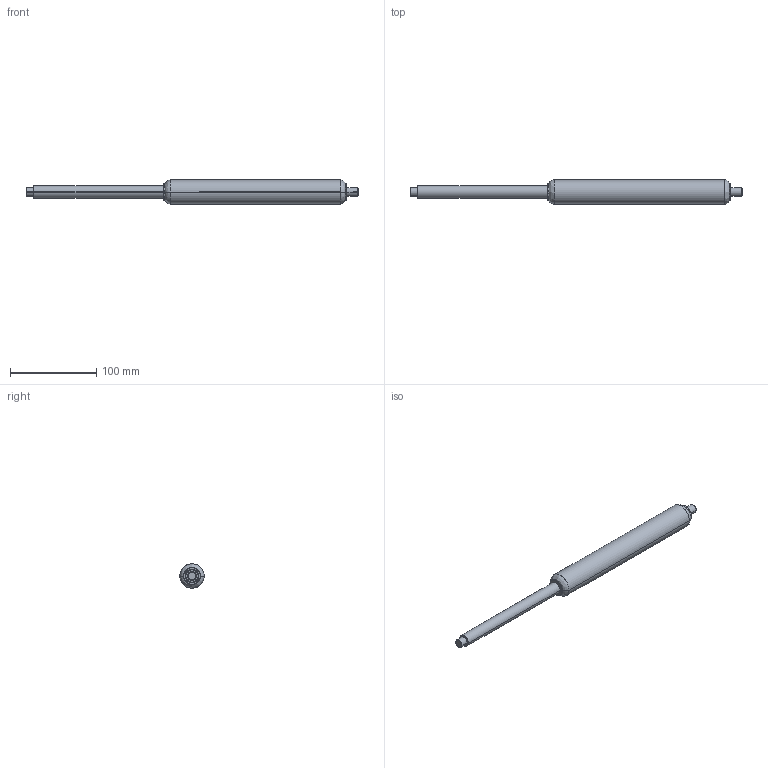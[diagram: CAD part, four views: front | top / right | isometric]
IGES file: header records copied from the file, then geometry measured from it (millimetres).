
Start section: SolidWorks IGES file using analytic representation for surfaces
Global section: file name: Z:\7-3D図面\01.図面\01.L\外形図\Ｇ／Ｓ\20170710(最新)\カタログ用\IGES\FGS-28-150-BB.IGS; native system: SolidWorks 2016; preprocessor: SolidWorks 2016; author: flgijutsu; date: 170710.171630; units: millimetre
Bounding box: 384 x 28 x 28 mm (x, y, z)
Surface area: 26898 mm2 (no closed solid volume)
Topology: 0 solids, 0 shells, 31 faces, 360 edges, 360 vertices
Faces by surface type: revolution 22, bspline 9
